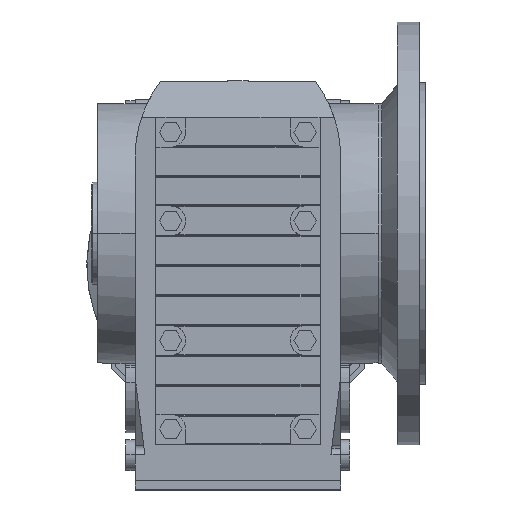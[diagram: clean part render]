
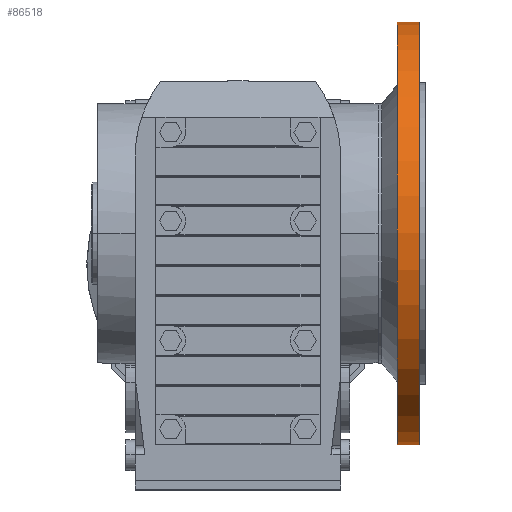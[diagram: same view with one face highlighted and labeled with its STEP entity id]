
A CAD part, top view. The second image highlights one B-rep face of the part: STEP entity #86518.
In plain terms, the highlighted cylindrical face has radius 175 mm (diameter 350 mm), a partial arc.
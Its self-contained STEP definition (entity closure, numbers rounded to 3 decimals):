
#85278 = PLANE('',#85279);
#85279 = AXIS2_PLACEMENT_3D('',#85280,#85281,#85282);
#85280 = CARTESIAN_POINT('',(150.,175.,0.));
#85281 = DIRECTION('',(-1.,0.,0.));
#85282 = DIRECTION('',(0.,-1.,0.));
#85352 = PLANE('',#85353);
#85353 = AXIS2_PLACEMENT_3D('',#85354,#85355,#85356);
#85354 = CARTESIAN_POINT('',(132.,122.993,0.));
#85355 = DIRECTION('',(1.,0.,0.));
#85356 = DIRECTION('',(0.,1.,0.));
#85754 = EDGE_CURVE('',#85755,#85757,#85759,.T.);
#85755 = VERTEX_POINT('',#85756);
#85756 = CARTESIAN_POINT('',(150.,-175.,0.));
#85757 = VERTEX_POINT('',#85758);
#85758 = CARTESIAN_POINT('',(150.,175.,0.));
#85759 = SURFACE_CURVE('',#85760,(#85765,#85772),.PCURVE_S1.);
#85760 = CIRCLE('',#85761,175.);
#85761 = AXIS2_PLACEMENT_3D('',#85762,#85763,#85764);
#85762 = CARTESIAN_POINT('',(150.,0.,0.));
#85763 = DIRECTION('',(-1.,0.,0.));
#85764 = DIRECTION('',(0.,-1.,0.));
#85765 = PCURVE('',#85278,#85766);
#85766 = DEFINITIONAL_REPRESENTATION('',(#85767),#85771);
#85767 = CIRCLE('',#85768,175.);
#85768 = AXIS2_PLACEMENT_2D('',#85769,#85770);
#85769 = CARTESIAN_POINT('',(175.,0.));
#85770 = DIRECTION('',(1.,0.));
#85771 = ( GEOMETRIC_REPRESENTATION_CONTEXT(2) 
PARAMETRIC_REPRESENTATION_CONTEXT() REPRESENTATION_CONTEXT('2D SPACE',''
  ) );
#85772 = PCURVE('',#85773,#85778);
#85773 = CYLINDRICAL_SURFACE('',#85774,175.);
#85774 = AXIS2_PLACEMENT_3D('',#85775,#85776,#85777);
#85775 = CARTESIAN_POINT('',(0.,0.,0.));
#85776 = DIRECTION('',(-1.,0.,0.));
#85777 = DIRECTION('',(0.,-1.,0.));
#85778 = DEFINITIONAL_REPRESENTATION('',(#85779),#85782);
#85779 = B_SPLINE_CURVE_WITH_KNOTS('',1,(#85780,#85781),.UNSPECIFIED.,
  .F.,.F.,(2,2),(0.,3.142),.PIECEWISE_BEZIER_KNOTS.);
#85780 = CARTESIAN_POINT('',(0.,-150.));
#85781 = CARTESIAN_POINT('',(3.142,-150.));
#85782 = ( GEOMETRIC_REPRESENTATION_CONTEXT(2) 
PARAMETRIC_REPRESENTATION_CONTEXT() REPRESENTATION_CONTEXT('2D SPACE',''
  ) );
#85799 = CYLINDRICAL_SURFACE('',#85800,175.);
#85800 = AXIS2_PLACEMENT_3D('',#85801,#85802,#85803);
#85801 = CARTESIAN_POINT('',(0.,0.,0.));
#85802 = DIRECTION('',(-1.,0.,0.));
#85803 = DIRECTION('',(0.,-1.,0.));
#86273 = EDGE_CURVE('',#86274,#86276,#86278,.T.);
#86274 = VERTEX_POINT('',#86275);
#86275 = CARTESIAN_POINT('',(132.,-175.,0.));
#86276 = VERTEX_POINT('',#86277);
#86277 = CARTESIAN_POINT('',(132.,175.,0.));
#86278 = SURFACE_CURVE('',#86279,(#86284,#86295),.PCURVE_S1.);
#86279 = CIRCLE('',#86280,175.);
#86280 = AXIS2_PLACEMENT_3D('',#86281,#86282,#86283);
#86281 = CARTESIAN_POINT('',(132.,0.,0.));
#86282 = DIRECTION('',(-1.,0.,0.));
#86283 = DIRECTION('',(0.,-1.,0.));
#86284 = PCURVE('',#85352,#86285);
#86285 = DEFINITIONAL_REPRESENTATION('',(#86286),#86294);
#86286 = ( BOUNDED_CURVE() B_SPLINE_CURVE(2,(#86287,#86288,#86289,#86290
    ,#86291,#86292,#86293),.UNSPECIFIED.,.F.,.F.) 
B_SPLINE_CURVE_WITH_KNOTS((1,2,2,2,2,1),(-2.094,0.,
    2.094,4.189,6.283,8.378),
.UNSPECIFIED.) CURVE() GEOMETRIC_REPRESENTATION_ITEM() 
RATIONAL_B_SPLINE_CURVE((1.,0.5,1.,0.5,1.,0.5,1.)) REPRESENTATION_ITEM(
  '') );
#86287 = CARTESIAN_POINT('',(-297.993,0.));
#86288 = CARTESIAN_POINT('',(-297.993,303.109));
#86289 = CARTESIAN_POINT('',(-35.493,151.554));
#86290 = CARTESIAN_POINT('',(227.007,0.));
#86291 = CARTESIAN_POINT('',(-35.493,-151.554));
#86292 = CARTESIAN_POINT('',(-297.993,-303.109));
#86293 = CARTESIAN_POINT('',(-297.993,0.));
#86294 = ( GEOMETRIC_REPRESENTATION_CONTEXT(2) 
PARAMETRIC_REPRESENTATION_CONTEXT() REPRESENTATION_CONTEXT('2D SPACE',''
  ) );
#86295 = PCURVE('',#85773,#86296);
#86296 = DEFINITIONAL_REPRESENTATION('',(#86297),#86300);
#86297 = B_SPLINE_CURVE_WITH_KNOTS('',1,(#86298,#86299),.UNSPECIFIED.,
  .F.,.F.,(2,2),(0.,3.142),.PIECEWISE_BEZIER_KNOTS.);
#86298 = CARTESIAN_POINT('',(0.,-132.));
#86299 = CARTESIAN_POINT('',(3.142,-132.));
#86300 = ( GEOMETRIC_REPRESENTATION_CONTEXT(2) 
PARAMETRIC_REPRESENTATION_CONTEXT() REPRESENTATION_CONTEXT('2D SPACE',''
  ) );
#86518 = ADVANCED_FACE('',(#86519),#85773,.T.);
#86519 = FACE_BOUND('',#86520,.T.);
#86520 = EDGE_LOOP('',(#86521,#86522,#86541,#86542));
#86521 = ORIENTED_EDGE('',*,*,#85754,.T.);
#86522 = ORIENTED_EDGE('',*,*,#86523,.T.);
#86523 = EDGE_CURVE('',#85757,#86276,#86524,.T.);
#86524 = SURFACE_CURVE('',#86525,(#86529,#86535),.PCURVE_S1.);
#86525 = LINE('',#86526,#86527);
#86526 = CARTESIAN_POINT('',(0.,175.,
    0.));
#86527 = VECTOR('',#86528,1.);
#86528 = DIRECTION('',(-1.,0.,0.));
#86529 = PCURVE('',#85773,#86530);
#86530 = DEFINITIONAL_REPRESENTATION('',(#86531),#86534);
#86531 = B_SPLINE_CURVE_WITH_KNOTS('',1,(#86532,#86533),.UNSPECIFIED.,
  .F.,.F.,(2,2),(-150.,-132.),.PIECEWISE_BEZIER_KNOTS.);
#86532 = CARTESIAN_POINT('',(3.142,-150.));
#86533 = CARTESIAN_POINT('',(3.142,-132.));
#86534 = ( GEOMETRIC_REPRESENTATION_CONTEXT(2) 
PARAMETRIC_REPRESENTATION_CONTEXT() REPRESENTATION_CONTEXT('2D SPACE',''
  ) );
#86535 = PCURVE('',#85799,#86536);
#86536 = DEFINITIONAL_REPRESENTATION('',(#86537),#86540);
#86537 = B_SPLINE_CURVE_WITH_KNOTS('',1,(#86538,#86539),.UNSPECIFIED.,
  .F.,.F.,(2,2),(-150.,-132.),.PIECEWISE_BEZIER_KNOTS.);
#86538 = CARTESIAN_POINT('',(3.142,-150.));
#86539 = CARTESIAN_POINT('',(3.142,-132.));
#86540 = ( GEOMETRIC_REPRESENTATION_CONTEXT(2) 
PARAMETRIC_REPRESENTATION_CONTEXT() REPRESENTATION_CONTEXT('2D SPACE',''
  ) );
#86541 = ORIENTED_EDGE('',*,*,#86273,.F.);
#86542 = ORIENTED_EDGE('',*,*,#86543,.F.);
#86543 = EDGE_CURVE('',#85755,#86274,#86544,.T.);
#86544 = SURFACE_CURVE('',#86545,(#86549,#86555),.PCURVE_S1.);
#86545 = LINE('',#86546,#86547);
#86546 = CARTESIAN_POINT('',(0.,-175.,0.));
#86547 = VECTOR('',#86548,1.);
#86548 = DIRECTION('',(-1.,0.,0.));
#86549 = PCURVE('',#85773,#86550);
#86550 = DEFINITIONAL_REPRESENTATION('',(#86551),#86554);
#86551 = B_SPLINE_CURVE_WITH_KNOTS('',1,(#86552,#86553),.UNSPECIFIED.,
  .F.,.F.,(2,2),(-150.,-132.),.PIECEWISE_BEZIER_KNOTS.);
#86552 = CARTESIAN_POINT('',(0.,-150.));
#86553 = CARTESIAN_POINT('',(0.,-132.));
#86554 = ( GEOMETRIC_REPRESENTATION_CONTEXT(2) 
PARAMETRIC_REPRESENTATION_CONTEXT() REPRESENTATION_CONTEXT('2D SPACE',''
  ) );
#86555 = PCURVE('',#85799,#86556);
#86556 = DEFINITIONAL_REPRESENTATION('',(#86557),#86560);
#86557 = B_SPLINE_CURVE_WITH_KNOTS('',1,(#86558,#86559),.UNSPECIFIED.,
  .F.,.F.,(2,2),(-150.,-132.),.PIECEWISE_BEZIER_KNOTS.);
#86558 = CARTESIAN_POINT('',(6.283,-150.));
#86559 = CARTESIAN_POINT('',(6.283,-132.));
#86560 = ( GEOMETRIC_REPRESENTATION_CONTEXT(2) 
PARAMETRIC_REPRESENTATION_CONTEXT() REPRESENTATION_CONTEXT('2D SPACE',''
  ) );
